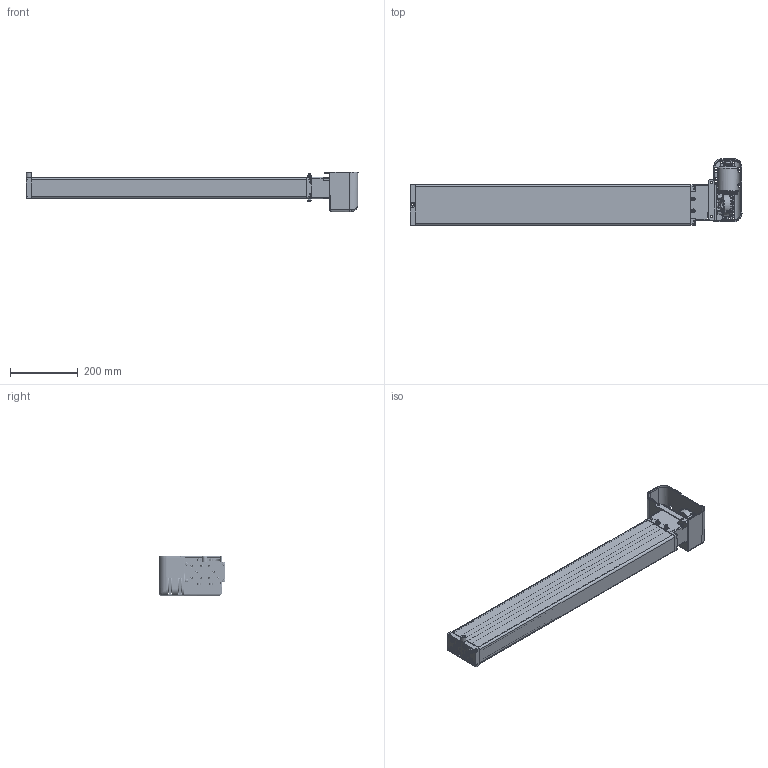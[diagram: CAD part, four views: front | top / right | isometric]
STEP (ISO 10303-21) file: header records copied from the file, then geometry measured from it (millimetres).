
FILE_DESCRIPTION(/* description */ ('Unknown'),/* implementation_level */ '2;1');
FILE_NAME(/* name */ '3X2.20276 Pumpe PB 9860 W mit Antrieb',/* time_stamp */ '2016-11-25T15:24:17+01:00',/* author */ ('Unknown'),/* organization */ ('Unknown'),/* preprocessor_version */ 'ST-DEVELOPER v16.7',/* originating_system */ 'DEX',/* authorisation */ $);
FILE_SCHEMA (('AUTOMOTIVE_DESIGN {1 0 10303 214 3 1 1}'));
Products named in the file (33): 102.00276; 115.10036; 125.00061; 115.00008; 142.00021; 125.00021; 142.00013; 125.00146; 115.00140; 126.00006; 122.00040; 119.00046; 126.00036; 127.00201; 127.00200; 127.00023; 124.00090; Getriebe; Ring; Schraube; Stator; Abdeckplatte; Antriebswelle; 128.00051; 123.00031; 142.00018; 142.00019; 142.00025; 142.00131; 123.00029; 142.00057; 142.00083; 142.00017
Assembly tree (56 placements, depth 3):
  102.00276
    115.10036  x9
      125.00061
      115.00008
      142.00021
      125.00021
    142.00013  x8
    125.00146
    115.00140
      126.00006
      122.00040
    119.00046
    126.00036
    127.00201
      127.00200
      127.00023
    124.00090
      Getriebe
      Ring
      Schraube
      Stator
      Abdeckplatte
      Antriebswelle
    128.00051
    123.00031
    142.00018  x2
    142.00019  x2
    142.00025  x2
    142.00131  x3
    123.00029
    142.00057
    142.00083  x4
    142.00017  x2
Bounding box: 978.45 x 196.04 x 115.45 mm (x, y, z)
Volume: 1510123.2 mm3; surface area: 1001219.7 mm2
Topology: 67 solids, 69 shells, 4475 faces, 11175 edges, 6853 vertices
Faces by surface type: plane 1419, cylinder 1203, bspline 1040, cone 508, torus 206, sphere 99
Full cylindrical faces by diameter (mm): 2.5 x4, 3.2 x4, 3.5 x9, 3.9 x5, 4.1 x9, 4.134 x4, 4.2 x11, 4.4 x5, 4.5 x1, 4.917 x4, 5 x12, 5.5 x5, 5.8 x4, 6 x8, 6.4 x2, 6.8 x6, 6.917 x18, 7 x1, 8 x20, 8.5 x10, 9 x2, 9.5 x1, 9.8 x8, 10 x10, 10.3 x1, 10.32 x1, 10.4 x1, 10.5 x4, 11 x5, 12.5 x9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
Entity records: 165450 total; most frequent: CARTESIAN_POINT 80684, ORIENTED_EDGE 16058, DIRECTION 12095, EDGE_CURVE 8029, VERTEX_POINT 5273, AXIS2_PLACEMENT_3D 4682, FACE_BOUND 4022, EDGE_LOOP 4017
